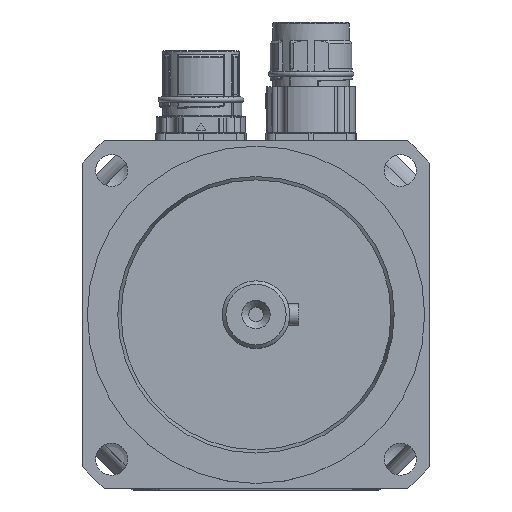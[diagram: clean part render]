
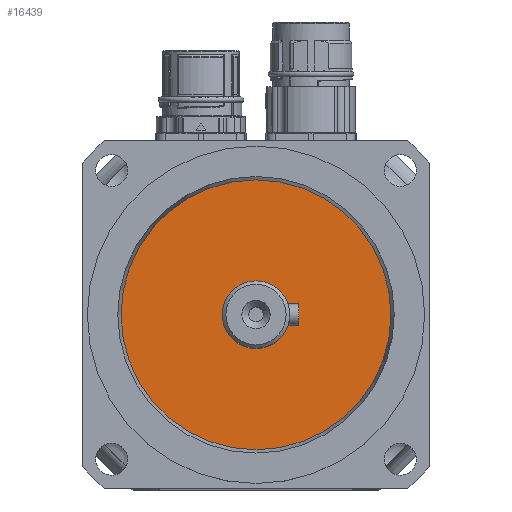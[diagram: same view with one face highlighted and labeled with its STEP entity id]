
A CAD part, top view. The second image highlights one B-rep face of the part: STEP entity #16439.
In plain terms, the highlighted planar face has unit normal (0, 0, 1).
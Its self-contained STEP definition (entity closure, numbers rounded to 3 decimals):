
#2868=FACE_BOUND('',#4078,.T.);
#3071=FACE_OUTER_BOUND('',#4077,.T.);
#4077=EDGE_LOOP('',(#10380));
#4078=EDGE_LOOP('',(#10381));
#5286=CIRCLE('',#17450,38.);
#5287=CIRCLE('',#17451,9.5);
#6393=VERTEX_POINT('',#24420);
#6394=VERTEX_POINT('',#24422);
#7976=EDGE_CURVE('',#6393,#6393,#5286,.T.);
#7977=EDGE_CURVE('',#6394,#6394,#5287,.T.);
#10380=ORIENTED_EDGE('',*,*,#7976,.T.);
#10381=ORIENTED_EDGE('',*,*,#7977,.T.);
#15188=PLANE('',#17449);
#16439=ADVANCED_FACE('',(#3071,#2868),#15188,.T.);
#17449=AXIS2_PLACEMENT_3D('',#24419,#19496,#19497);
#17450=AXIS2_PLACEMENT_3D('',#24421,#19498,#19499);
#17451=AXIS2_PLACEMENT_3D('',#24423,#19500,#19501);
#19496=DIRECTION('center_axis',(0.,0.,1.));
#19497=DIRECTION('ref_axis',(1.,0.,0.));
#19498=DIRECTION('center_axis',(0.,0.,1.));
#19499=DIRECTION('ref_axis',(1.,0.,0.));
#19500=DIRECTION('center_axis',(0.,0.,-1.));
#19501=DIRECTION('ref_axis',(-1.,0.,0.));
#24419=CARTESIAN_POINT('Origin',(0.,0.,192.5));
#24420=CARTESIAN_POINT('',(38.,0.,192.5));
#24421=CARTESIAN_POINT('Origin',(0.,0.,192.5));
#24422=CARTESIAN_POINT('',(9.5,0.,192.5));
#24423=CARTESIAN_POINT('Origin',(0.,0.,192.5));
